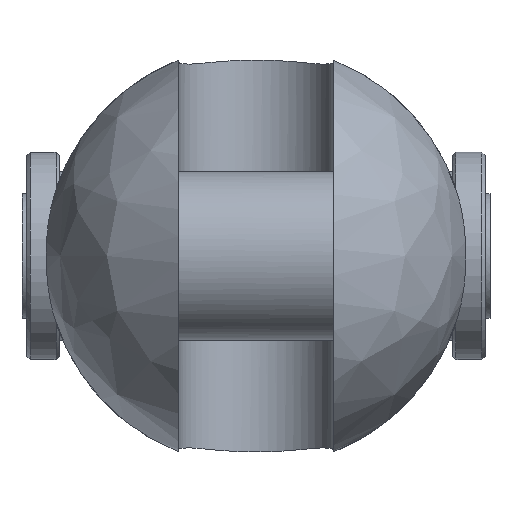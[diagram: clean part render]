
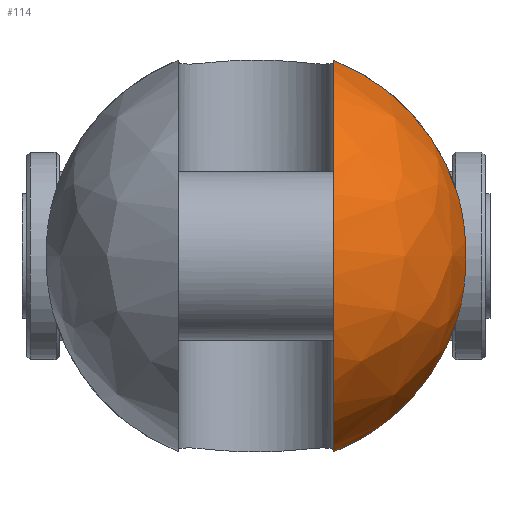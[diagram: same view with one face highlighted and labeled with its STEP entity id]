
A CAD part, left-side view. The second image highlights one B-rep face of the part: STEP entity #114.
In plain terms, the highlighted free-form (B-spline) face has degree [2, 2] with [9, 5] control points.
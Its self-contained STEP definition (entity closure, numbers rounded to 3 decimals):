
#114=ADVANCED_FACE('',(#202),#1530,.T.);
#202=FACE_OUTER_BOUND('',#302,.T.);
#302=EDGE_LOOP('',(#744,#745,#746,#747));
#744=ORIENTED_EDGE('',*,*,#1000,.T.);
#745=ORIENTED_EDGE('',*,*,#997,.F.);
#746=ORIENTED_EDGE('',*,*,#1022,.T.);
#747=ORIENTED_EDGE('',*,*,#990,.F.);
#990=EDGE_CURVE('',#1420,#1421,#1252,.T.);
#997=EDGE_CURVE('',#1428,#1429,#1253,.T.);
#1000=EDGE_CURVE('',#1420,#1429,#1255,.T.);
#1022=EDGE_CURVE('',#1428,#1421,#1126,.T.);
#1126=B_SPLINE_CURVE_WITH_KNOTS('',3,(#3574,#3575,#3576,#3577,#3578,#3579,
#3580,#3581,#3582,#3583,#3584,#3585,#3586,#3587),.UNSPECIFIED.,.F.,.F.,
(4,2,2,2,2,2,4),(-20.789,-19.15,-14.772,
-10.395,-6.017,-1.64,0.),.UNSPECIFIED.);
#1252=(
BOUNDED_CURVE()
B_SPLINE_CURVE(2,(#3465,#3466,#3467),.UNSPECIFIED.,.F.,.F.)
B_SPLINE_CURVE_WITH_KNOTS((3,3),(0.,28.969),.UNSPECIFIED.)
CURVE()
GEOMETRIC_REPRESENTATION_ITEM()
RATIONAL_B_SPLINE_CURVE((1.,0.902,1.))
REPRESENTATION_ITEM('')
);
#1253=(
BOUNDED_CURVE()
B_SPLINE_CURVE(2,(#3488,#3489,#3490),.UNSPECIFIED.,.F.,.F.)
B_SPLINE_CURVE_WITH_KNOTS((3,3),(0.,28.969),.UNSPECIFIED.)
CURVE()
GEOMETRIC_REPRESENTATION_ITEM()
RATIONAL_B_SPLINE_CURVE((1.,0.902,1.))
REPRESENTATION_ITEM('')
);
#1255=(
BOUNDED_CURVE()
B_SPLINE_CURVE(2,(#3496,#3497,#3498,#3499,#3500),.UNSPECIFIED.,.F.,.F.)
B_SPLINE_CURVE_WITH_KNOTS((3,2,3),(-94.887,-47.444,
0.),.UNSPECIFIED.)
CURVE()
GEOMETRIC_REPRESENTATION_ITEM()
RATIONAL_B_SPLINE_CURVE((1.,0.707,1.,0.707,1.))
REPRESENTATION_ITEM('')
);
#1420=VERTEX_POINT('',#3297);
#1421=VERTEX_POINT('',#3298);
#1428=VERTEX_POINT('',#3305);
#1429=VERTEX_POINT('',#3306);
#1530=(
BOUNDED_SURFACE()
B_SPLINE_SURFACE(2,2,((#3169,#3170,#3171,#3172,#3173),(#3174,#3175,#3176,
#3177,#3178),(#3179,#3180,#3181,#3182,#3183),(#3184,#3185,#3186,#3187,#3188),
(#3189,#3190,#3191,#3192,#3193),(#3194,#3195,#3196,#3197,#3198),(#3199,
#3200,#3201,#3202,#3203),(#3204,#3205,#3206,#3207,#3208),(#3209,#3210,#3211,
#3212,#3213)),.UNSPECIFIED.,.T.,.F.,.F.)
B_SPLINE_SURFACE_WITH_KNOTS((3,2,2,2,3),(3,2,3),(0.,51.051,102.102,
153.153,204.204),(0.,51.051,102.102),
 .UNSPECIFIED.)
GEOMETRIC_REPRESENTATION_ITEM()
RATIONAL_B_SPLINE_SURFACE(((1.,0.707,1.,0.707,1.),
(0.707,0.5,0.707,0.5,0.707),(1.,0.707,
1.,0.707,1.),(0.707,0.5,0.707,0.5,0.707),
(1.,0.707,1.,0.707,1.),(0.707,0.5,0.707,
0.5,0.707),(1.,0.707,1.,0.707,1.),(0.707,
0.5,0.707,0.5,0.707),(1.,0.707,1.,0.707,
1.)))
REPRESENTATION_ITEM('')
SURFACE()
);
#3169=CARTESIAN_POINT('',(-46.5,0.,0.));
#3170=CARTESIAN_POINT('',(-46.5,32.5,0.));
#3171=CARTESIAN_POINT('',(-14.,32.5,0.));
#3172=CARTESIAN_POINT('',(18.5,32.5,0.));
#3173=CARTESIAN_POINT('',(18.5,0.,0.));
#3174=CARTESIAN_POINT('',(-46.5,0.,0.));
#3175=CARTESIAN_POINT('',(-46.5,32.5,32.5));
#3176=CARTESIAN_POINT('',(-14.,32.5,32.5));
#3177=CARTESIAN_POINT('',(18.5,32.5,32.5));
#3178=CARTESIAN_POINT('',(18.5,0.,0.));
#3179=CARTESIAN_POINT('',(-46.5,0.,0.));
#3180=CARTESIAN_POINT('',(-46.5,0.,32.5));
#3181=CARTESIAN_POINT('',(-14.,0.,32.5));
#3182=CARTESIAN_POINT('',(18.5,0.,32.5));
#3183=CARTESIAN_POINT('',(18.5,0.,0.));
#3184=CARTESIAN_POINT('',(-46.5,0.,0.));
#3185=CARTESIAN_POINT('',(-46.5,-32.5,32.5));
#3186=CARTESIAN_POINT('',(-14.,-32.5,32.5));
#3187=CARTESIAN_POINT('',(18.5,-32.5,32.5));
#3188=CARTESIAN_POINT('',(18.5,0.,0.));
#3189=CARTESIAN_POINT('',(-46.5,0.,0.));
#3190=CARTESIAN_POINT('',(-46.5,-32.5,0.));
#3191=CARTESIAN_POINT('',(-14.,-32.5,0.));
#3192=CARTESIAN_POINT('',(18.5,-32.5,0.));
#3193=CARTESIAN_POINT('',(18.5,0.,0.));
#3194=CARTESIAN_POINT('',(-46.5,0.,0.));
#3195=CARTESIAN_POINT('',(-46.5,-32.5,-32.5));
#3196=CARTESIAN_POINT('',(-14.,-32.5,-32.5));
#3197=CARTESIAN_POINT('',(18.5,-32.5,-32.5));
#3198=CARTESIAN_POINT('',(18.5,0.,0.));
#3199=CARTESIAN_POINT('',(-46.5,0.,0.));
#3200=CARTESIAN_POINT('',(-46.5,0.,-32.5));
#3201=CARTESIAN_POINT('',(-14.,0.,-32.5));
#3202=CARTESIAN_POINT('',(18.5,0.,-32.5));
#3203=CARTESIAN_POINT('',(18.5,0.,0.));
#3204=CARTESIAN_POINT('',(-46.5,0.,0.));
#3205=CARTESIAN_POINT('',(-46.5,32.5,-32.5));
#3206=CARTESIAN_POINT('',(-14.,32.5,-32.5));
#3207=CARTESIAN_POINT('',(18.5,32.5,-32.5));
#3208=CARTESIAN_POINT('',(18.5,0.,0.));
#3209=CARTESIAN_POINT('',(-46.5,0.,0.));
#3210=CARTESIAN_POINT('',(-46.5,32.5,0.));
#3211=CARTESIAN_POINT('',(-14.,32.5,0.));
#3212=CARTESIAN_POINT('',(18.5,32.5,0.));
#3213=CARTESIAN_POINT('',(18.5,0.,0.));
#3297=CARTESIAN_POINT('',(-14.,-12.,30.203));
#3298=CARTESIAN_POINT('',(-14.,-31.036,9.644));
#3305=CARTESIAN_POINT('',(-14.,-31.036,-9.644));
#3306=CARTESIAN_POINT('',(-14.,-12.,-30.203));
#3465=CARTESIAN_POINT('',(-14.,-12.,30.203));
#3466=CARTESIAN_POINT('',(-14.,-26.429,24.471));
#3467=CARTESIAN_POINT('',(-14.,-31.036,9.644));
#3488=CARTESIAN_POINT('',(-14.,-31.036,-9.644));
#3489=CARTESIAN_POINT('',(-14.,-26.429,-24.471));
#3490=CARTESIAN_POINT('',(-14.,-12.,-30.203));
#3496=CARTESIAN_POINT('',(-14.,-12.,30.203));
#3497=CARTESIAN_POINT('',(-44.203,-12.,30.203));
#3498=CARTESIAN_POINT('',(-44.203,-12.,0.));
#3499=CARTESIAN_POINT('',(-44.203,-12.,-30.203));
#3500=CARTESIAN_POINT('',(-14.,-12.,-30.203));
#3574=CARTESIAN_POINT('',(-14.,-31.036,-9.644));
#3575=CARTESIAN_POINT('',(-14.303,-31.173,-9.204));
#3576=CARTESIAN_POINT('',(-14.587,-31.3,-8.747));
#3577=CARTESIAN_POINT('',(-15.548,-31.728,-7.023));
#3578=CARTESIAN_POINT('',(-16.093,-31.967,-5.667));
#3579=CARTESIAN_POINT('',(-16.819,-32.283,-2.867));
#3580=CARTESIAN_POINT('',(-17.,-32.361,-1.423));
#3581=CARTESIAN_POINT('',(-17.,-32.361,1.423));
#3582=CARTESIAN_POINT('',(-16.819,-32.283,2.867));
#3583=CARTESIAN_POINT('',(-16.093,-31.967,5.667));
#3584=CARTESIAN_POINT('',(-15.548,-31.728,7.023));
#3585=CARTESIAN_POINT('',(-14.587,-31.3,8.747));
#3586=CARTESIAN_POINT('',(-14.303,-31.173,9.204));
#3587=CARTESIAN_POINT('',(-14.,-31.036,9.644));
